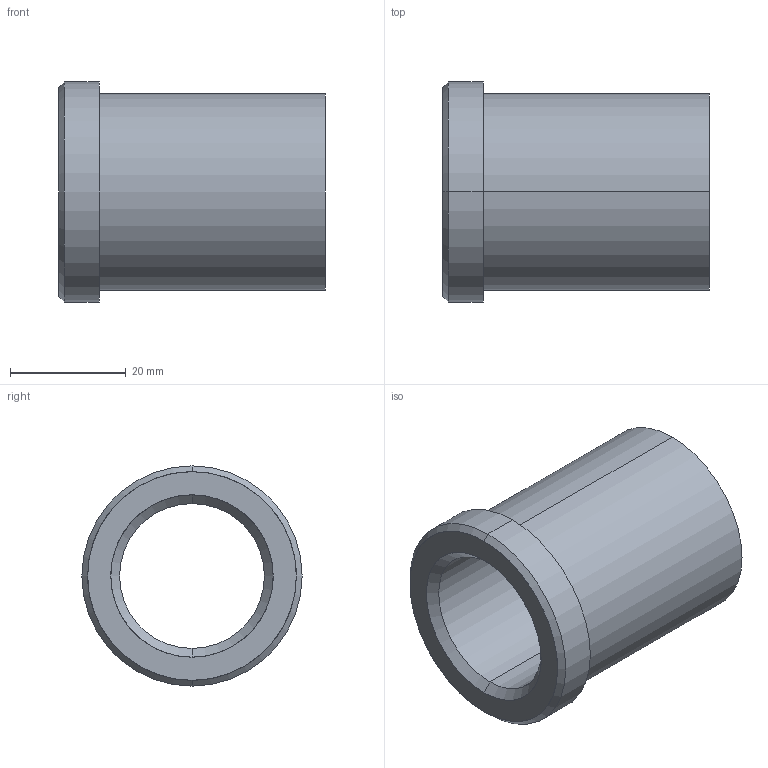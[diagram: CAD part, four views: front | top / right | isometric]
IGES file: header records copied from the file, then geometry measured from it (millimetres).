
Start section: START RECORD GO HERE.
Global section: file name: 353-25X46.igs; native system: DASSAULT SYSTEMES CATIA V5 R20 - www.3ds.com; preprocessor: CATIA Version 5 Release 20 ; author: Utente; organization: NB04-ASUS; date: 20210512.204555; units: millimetre
Bounding box: 46 x 38 x 38 mm (x, y, z)
Surface area: 9697.8 mm2 (no closed solid volume)
Topology: 0 solids, 0 shells, 15 faces, 96 edges, 96 vertices
Faces by surface type: revolution 12, plane 3
